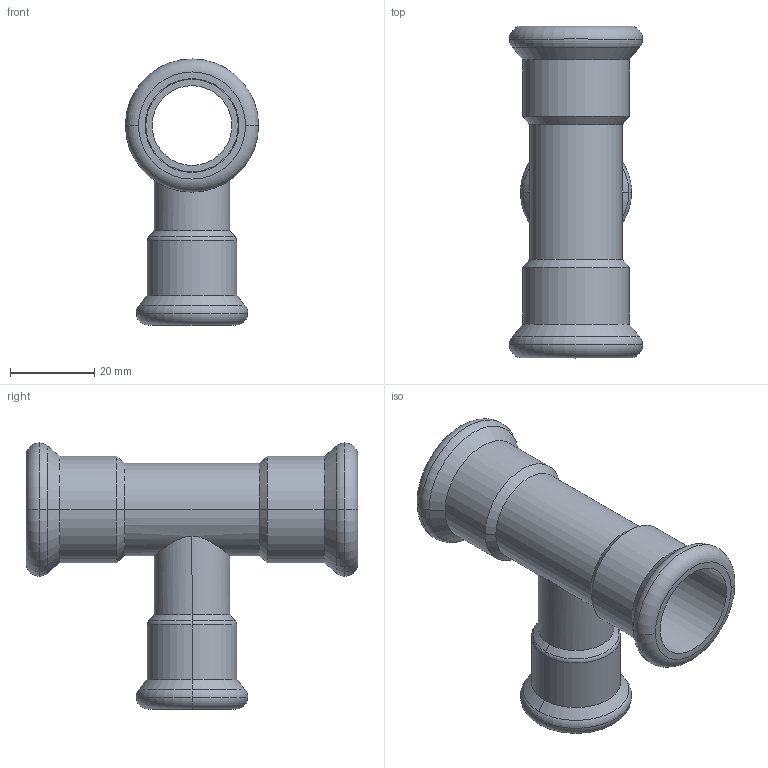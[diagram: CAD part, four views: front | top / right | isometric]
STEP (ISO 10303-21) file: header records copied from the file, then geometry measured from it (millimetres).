
FILE_DESCRIPTION(('CoCreate Modeling STEP Export'),'2;1');
FILE_NAME('C1415 22x18x22.stp','2014-11-11T17:06:23',(''),(''),'CoCreate Modeling STEP processor for AP214 (Solid Model)','CoCreate Modeling 17.00A 17-Jun-2010 (C) Parametric Technology GmbH','');
FILE_SCHEMA(('AUTOMOTIVE_DESIGN { 1 0 10303 214 1 1 1 1 }'));
Length unit declared in the file: millimetre
Products named in the file (2): C1415_22x18x22
Assembly tree (1 placements, depth 2):
  C1415_22x18x22
    C1415_22x18x22
Bounding box: 31.7 x 79 x 63.35 mm (x, y, z)
Volume: 15777.3 mm3; surface area: 17338.9 mm2
Topology: 1 solids, 1 shells, 62 faces, 127 edges, 75 vertices
Faces by surface type: cylinder 27, torus 14, cone 12, plane 9
Entity records: 2466 total; most frequent: CARTESIAN_POINT 1307, ORIENTED_EDGE 254, DIRECTION 204, EDGE_CURVE 127, AXIS2_PLACEMENT_3D 83, VERTEX_POINT 75, EDGE_LOOP 72, FACE_OUTER_BOUND 62
